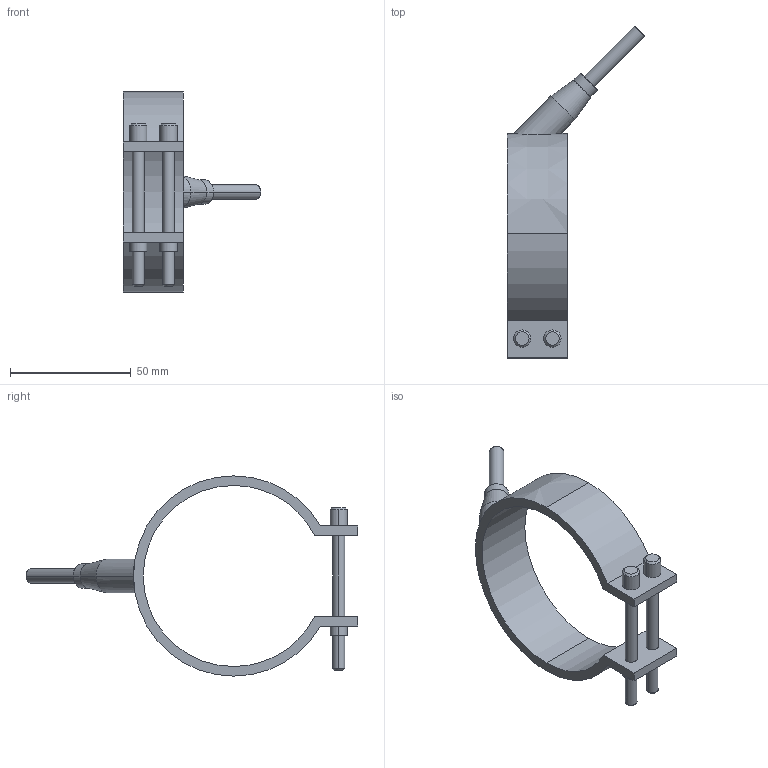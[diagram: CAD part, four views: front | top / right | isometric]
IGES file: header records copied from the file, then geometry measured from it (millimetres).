
Start section: START RECORD GO HERE.
Global section: file name: 29075025.igs; native system: DASSAULT SYSTEMES CATIA V5 R20 - www.3ds.com; preprocessor: CATIA Version 5 Release 20 ; author: Utente; organization: NB04-ASUS; date: 20210329.201711; units: millimetre
Bounding box: 57.05 x 137.55 x 83 mm (x, y, z)
Surface area: 17833.8 mm2 (no closed solid volume)
Topology: 0 solids, 0 shells, 54 faces, 250 edges, 250 vertices
Faces by surface type: revolution 38, plane 16
